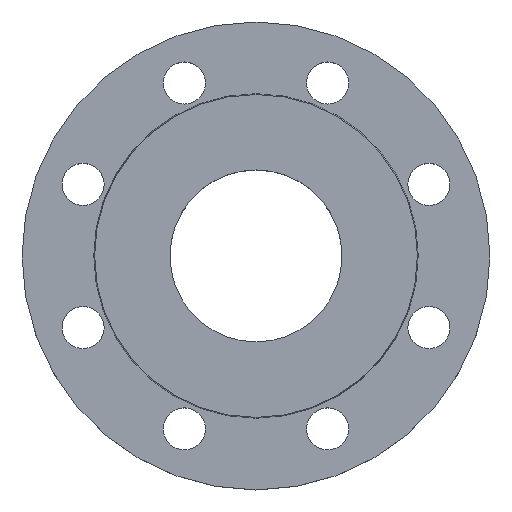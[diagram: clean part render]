
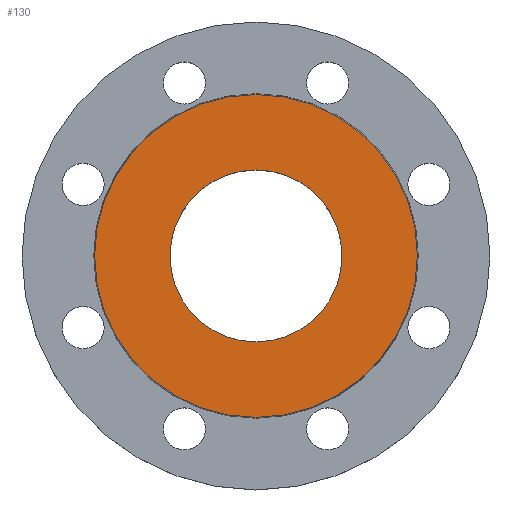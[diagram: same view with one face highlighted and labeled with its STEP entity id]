
A CAD part, top view. The second image highlights one B-rep face of the part: STEP entity #130.
In plain terms, the highlighted planar face has unit normal (0, 0, 1).
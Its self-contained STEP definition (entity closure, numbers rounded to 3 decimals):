
#21 = AXIS2_PLACEMENT_3D ( 'NONE', #718, #719, #721 ) ;
#29 = FACE_BOUND ( 'NONE', #1001, .T. ) ;
#43 = DIRECTION ( 'NONE',  ( 0., 0., 1. ) ) ;
#45 = AXIS2_PLACEMENT_3D ( 'NONE', #424, #423, #422 ) ;
#68 = EDGE_CURVE ( 'NONE', #835, #831, #780, .T. ) ;
#130 = ADVANCED_FACE ( 'NONE', ( #29, #509 ), #731, .T. ) ;
#134 = DIRECTION ( 'NONE',  ( 1., 0., 0. ) ) ;
#135 = DIRECTION ( 'NONE',  ( 0., 0., 1. ) ) ;
#136 = CARTESIAN_POINT ( 'NONE',  ( 0., 0., 0. ) ) ;
#211 = CARTESIAN_POINT ( 'NONE',  ( 69., 0., 0. ) ) ;
#214 = CARTESIAN_POINT ( 'NONE',  ( -69., 0., 0. ) ) ;
#216 = CARTESIAN_POINT ( 'NONE',  ( -36.753, 0., 0. ) ) ;
#245 = AXIS2_PLACEMENT_3D ( 'NONE', #352, #351, #350 ) ;
#348 = CIRCLE ( 'NONE', #245, 36.753 ) ;
#350 = DIRECTION ( 'NONE',  ( 1., 0., 0. ) ) ;
#351 = DIRECTION ( 'NONE',  ( 0., 0., 1. ) ) ;
#352 = CARTESIAN_POINT ( 'NONE',  ( 0., 0., 0. ) ) ;
#373 = CIRCLE ( 'NONE', #1005, 36.753 ) ;
#383 = CARTESIAN_POINT ( 'NONE',  ( 36.753, 0., 0. ) ) ;
#422 = DIRECTION ( 'NONE',  ( -1., 0., 0. ) ) ;
#423 = DIRECTION ( 'NONE',  ( 0., 0., -1. ) ) ;
#424 = CARTESIAN_POINT ( 'NONE',  ( 0., 0., 0. ) ) ;
#431 = EDGE_CURVE ( 'NONE', #831, #835, #775, .T. ) ;
#506 = DIRECTION ( 'NONE',  ( 1., 0., 0. ) ) ;
#509 = FACE_OUTER_BOUND ( 'NONE', #602, .T. ) ;
#522 = CARTESIAN_POINT ( 'NONE',  ( 0., 0., 0. ) ) ;
#579 = VERTEX_POINT ( 'NONE', #383 ) ;
#602 = EDGE_LOOP ( 'NONE', ( #987, #989 ) ) ;
#709 = EDGE_CURVE ( 'NONE', #579, #830, #348, .T. ) ;
#718 = CARTESIAN_POINT ( 'NONE',  ( 0., 0., 0. ) ) ;
#719 = DIRECTION ( 'NONE',  ( 0., 0., -1. ) ) ;
#721 = DIRECTION ( 'NONE',  ( -1., 0., 0. ) ) ;
#731 = PLANE ( 'NONE',  #774 ) ;
#774 = AXIS2_PLACEMENT_3D ( 'NONE', #522, #43, #506 ) ;
#775 = CIRCLE ( 'NONE', #45, 69. ) ;
#780 = CIRCLE ( 'NONE', #21, 69. ) ;
#830 = VERTEX_POINT ( 'NONE', #216 ) ;
#831 = VERTEX_POINT ( 'NONE', #214 ) ;
#835 = VERTEX_POINT ( 'NONE', #211 ) ;
#937 = EDGE_CURVE ( 'NONE', #830, #579, #373, .T. ) ;
#984 = ORIENTED_EDGE ( 'NONE', *, *, #709, .F. ) ;
#985 = ORIENTED_EDGE ( 'NONE', *, *, #937, .F. ) ;
#987 = ORIENTED_EDGE ( 'NONE', *, *, #431, .F. ) ;
#989 = ORIENTED_EDGE ( 'NONE', *, *, #68, .F. ) ;
#1001 = EDGE_LOOP ( 'NONE', ( #984, #985 ) ) ;
#1005 = AXIS2_PLACEMENT_3D ( 'NONE', #136, #135, #134 ) ;
